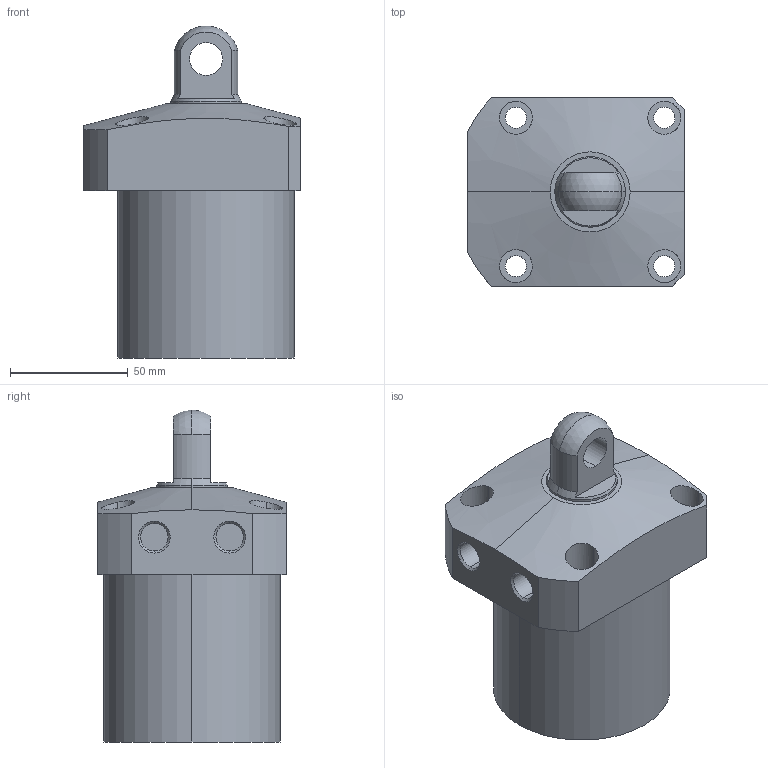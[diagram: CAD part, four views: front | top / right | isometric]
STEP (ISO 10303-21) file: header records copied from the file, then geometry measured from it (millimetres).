
FILE_DESCRIPTION (( 'STEP AP203' ), '1' );
FILE_NAME ('CLL-075CP-55.STEP', '2019-12-20T08:31:09', ( '' ), ( '' ), 'SwSTEP 2.0', 'SolidWorks 2015', '' );
FILE_SCHEMA (( 'CONFIG_CONTROL_DESIGN' ));
Length unit declared in the file: millimetre
Products named in the file (1): CLL-075CP-55
Bounding box: 92 x 80 x 141 mm (x, y, z)
Volume: 543138.2 mm3; surface area: 47998.6 mm2
Topology: 1 solids, 1 shells, 66 faces, 155 edges, 101 vertices
Faces by surface type: cylinder 35, plane 21, cone 8, sphere 2
Entity records: 2408 total; most frequent: CARTESIAN_POINT 755, DIRECTION 345, ORIENTED_EDGE 310, EDGE_CURVE 155, AXIS2_PLACEMENT_3D 143, VERTEX_POINT 101, EDGE_LOOP 86, CIRCLE 76
